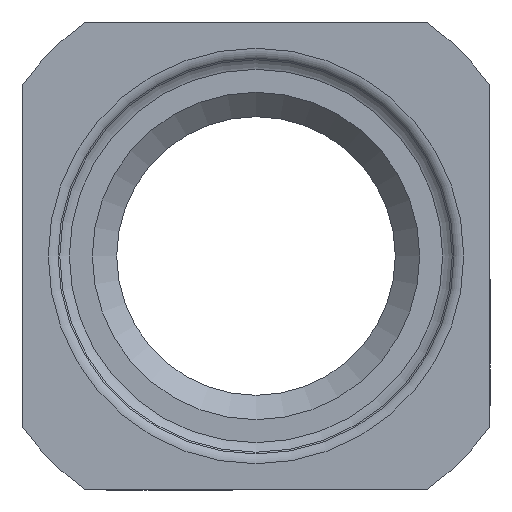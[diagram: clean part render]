
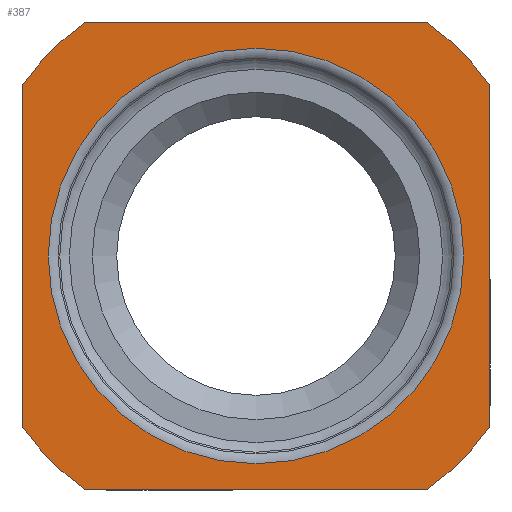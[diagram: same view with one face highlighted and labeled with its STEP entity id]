
A CAD part, front view. The second image highlights one B-rep face of the part: STEP entity #387.
In plain terms, the highlighted planar face has unit normal (0, -1, 0).
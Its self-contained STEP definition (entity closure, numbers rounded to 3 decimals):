
#27=FACE_BOUND('',#75,.T.);
#30=PLANE('',#448);
#49=FACE_OUTER_BOUND('',#74,.T.);
#74=EDGE_LOOP('',(#289,#290,#291,#292,#293,#294,#295,#296));
#75=EDGE_LOOP('',(#297));
#98=LINE('',#660,#116);
#99=LINE('',#664,#117);
#100=LINE('',#668,#118);
#101=LINE('',#671,#119);
#116=VECTOR('',#536,10.);
#117=VECTOR('',#539,10.);
#118=VECTOR('',#542,10.);
#119=VECTOR('',#545,10.);
#138=CIRCLE('',#442,7.457);
#143=CIRCLE('',#449,10.4);
#144=CIRCLE('',#450,10.4);
#145=CIRCLE('',#451,10.4);
#146=CIRCLE('',#452,10.4);
#170=VERTEX_POINT('',#644);
#174=VERTEX_POINT('',#656);
#175=VERTEX_POINT('',#657);
#176=VERTEX_POINT('',#659);
#177=VERTEX_POINT('',#661);
#178=VERTEX_POINT('',#663);
#179=VERTEX_POINT('',#665);
#180=VERTEX_POINT('',#667);
#181=VERTEX_POINT('',#669);
#211=EDGE_CURVE('',#170,#170,#138,.T.);
#217=EDGE_CURVE('',#174,#175,#143,.T.);
#218=EDGE_CURVE('',#175,#176,#98,.T.);
#219=EDGE_CURVE('',#176,#177,#144,.T.);
#220=EDGE_CURVE('',#177,#178,#99,.T.);
#221=EDGE_CURVE('',#178,#179,#145,.T.);
#222=EDGE_CURVE('',#179,#180,#100,.T.);
#223=EDGE_CURVE('',#180,#181,#146,.T.);
#224=EDGE_CURVE('',#181,#174,#101,.T.);
#289=ORIENTED_EDGE('',*,*,#217,.T.);
#290=ORIENTED_EDGE('',*,*,#218,.T.);
#291=ORIENTED_EDGE('',*,*,#219,.T.);
#292=ORIENTED_EDGE('',*,*,#220,.T.);
#293=ORIENTED_EDGE('',*,*,#221,.T.);
#294=ORIENTED_EDGE('',*,*,#222,.T.);
#295=ORIENTED_EDGE('',*,*,#223,.T.);
#296=ORIENTED_EDGE('',*,*,#224,.T.);
#297=ORIENTED_EDGE('',*,*,#211,.F.);
#387=ADVANCED_FACE('',(#49,#27),#30,.T.);
#442=AXIS2_PLACEMENT_3D('',#645,#519,#520);
#448=AXIS2_PLACEMENT_3D('',#655,#532,#533);
#449=AXIS2_PLACEMENT_3D('',#658,#534,#535);
#450=AXIS2_PLACEMENT_3D('',#662,#537,#538);
#451=AXIS2_PLACEMENT_3D('',#666,#540,#541);
#452=AXIS2_PLACEMENT_3D('',#670,#543,#544);
#519=DIRECTION('center_axis',(0.,-1.,0.));
#520=DIRECTION('ref_axis',(0.,0.,-1.));
#532=DIRECTION('center_axis',(0.,-1.,0.));
#533=DIRECTION('ref_axis',(0.,0.,-1.));
#534=DIRECTION('center_axis',(0.,-1.,0.));
#535=DIRECTION('ref_axis',(0.,0.,1.));
#536=DIRECTION('',(0.,0.,-1.));
#537=DIRECTION('center_axis',(0.,-1.,0.));
#538=DIRECTION('ref_axis',(0.,0.,1.));
#539=DIRECTION('',(1.,0.,0.));
#540=DIRECTION('center_axis',(0.,-1.,0.));
#541=DIRECTION('ref_axis',(0.,0.,1.));
#542=DIRECTION('',(0.,0.,1.));
#543=DIRECTION('center_axis',(0.,-1.,0.));
#544=DIRECTION('ref_axis',(0.,0.,1.));
#545=DIRECTION('',(-1.,0.,0.));
#644=CARTESIAN_POINT('',(0.,-7.5,-7.457));
#645=CARTESIAN_POINT('Origin',(0.,-7.5,0.));
#655=CARTESIAN_POINT('Origin',(0.,-7.5,0.));
#656=CARTESIAN_POINT('',(-6.132,-7.5,8.4));
#657=CARTESIAN_POINT('',(-8.4,-7.5,6.132));
#658=CARTESIAN_POINT('Origin',(0.,-7.5,0.));
#659=CARTESIAN_POINT('',(-8.4,-7.5,-6.132));
#660=CARTESIAN_POINT('',(-8.4,-7.5,-8.4));
#661=CARTESIAN_POINT('',(-6.132,-7.5,-8.4));
#662=CARTESIAN_POINT('Origin',(0.,-7.5,0.));
#663=CARTESIAN_POINT('',(6.132,-7.5,-8.4));
#664=CARTESIAN_POINT('',(8.4,-7.5,-8.4));
#665=CARTESIAN_POINT('',(8.4,-7.5,-6.132));
#666=CARTESIAN_POINT('Origin',(0.,-7.5,0.));
#667=CARTESIAN_POINT('',(8.4,-7.5,6.132));
#668=CARTESIAN_POINT('',(8.4,-7.5,8.4));
#669=CARTESIAN_POINT('',(6.132,-7.5,8.4));
#670=CARTESIAN_POINT('Origin',(0.,-7.5,0.));
#671=CARTESIAN_POINT('',(-8.4,-7.5,8.4));
